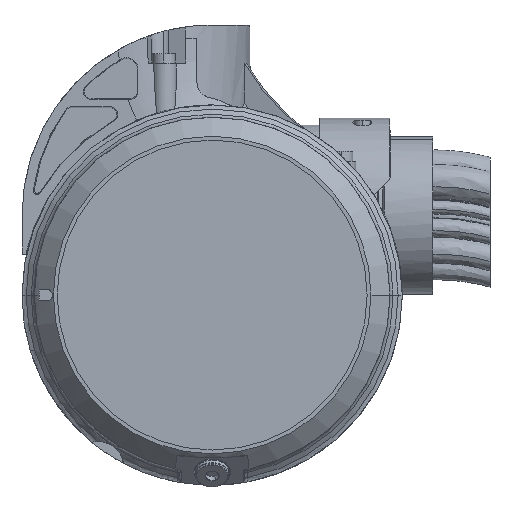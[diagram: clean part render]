
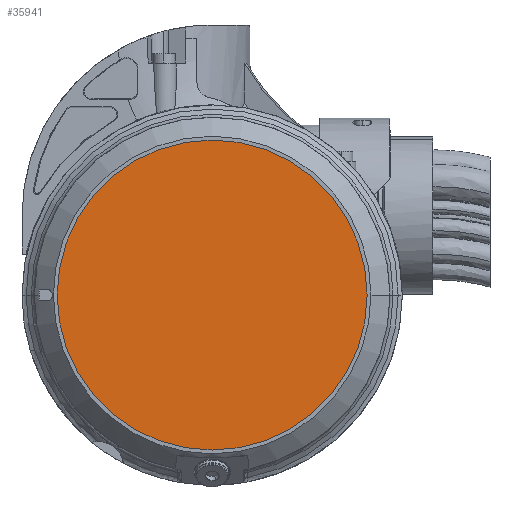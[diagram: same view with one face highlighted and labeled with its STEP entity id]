
A CAD part, left-side view. The second image highlights one B-rep face of the part: STEP entity #35941.
In plain terms, the highlighted planar face has unit normal (-1, 0, 0).
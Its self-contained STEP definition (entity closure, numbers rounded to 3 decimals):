
#6032 = ORIENTED_EDGE ( 'NONE', *, *, #20288, .T. ) ;
#6611 = DIRECTION ( 'NONE',  ( -1., 0., 0. ) ) ;
#8885 = DIRECTION ( 'NONE',  ( -1., 0., 0. ) ) ;
#10132 = FACE_OUTER_BOUND ( 'NONE', #15288, .T. ) ;
#12140 = CARTESIAN_POINT ( 'NONE',  ( 1970.5, -81.5, 2266. ) ) ;
#13788 = CARTESIAN_POINT ( 'NONE',  ( 1970.5, 0., 2266. ) ) ;
#14505 = PLANE ( 'NONE',  #18615 ) ;
#14799 = CARTESIAN_POINT ( 'NONE',  ( 1970.5, 81.5, 2266. ) ) ;
#15288 = EDGE_LOOP ( 'NONE', ( #6032, #19696 ) ) ;
#18615 = AXIS2_PLACEMENT_3D ( 'NONE', #28662, #6611, #42902 ) ;
#19696 = ORIENTED_EDGE ( 'NONE', *, *, #32030, .T. ) ;
#20288 = EDGE_CURVE ( 'NONE', #25661, #23948, #25453, .T. ) ;
#22456 = AXIS2_PLACEMENT_3D ( 'NONE', #13788, #38462, #24061 ) ;
#23948 = VERTEX_POINT ( 'NONE', #14799 ) ;
#24061 = DIRECTION ( 'NONE',  ( 0., -1., 0. ) ) ;
#25453 = CIRCLE ( 'NONE', #22456, 81.5 ) ;
#25661 = VERTEX_POINT ( 'NONE', #12140 ) ;
#28662 = CARTESIAN_POINT ( 'NONE',  ( 1970.5, 18.5, 2266. ) ) ;
#31972 = CIRCLE ( 'NONE', #39453, 81.5 ) ;
#32030 = EDGE_CURVE ( 'NONE', #23948, #25661, #31972, .T. ) ;
#33045 = CARTESIAN_POINT ( 'NONE',  ( 1970.5, 0., 2266. ) ) ;
#35941 = ADVANCED_FACE ( 'NONE', ( #10132 ), #14505, .T. ) ;
#38462 = DIRECTION ( 'NONE',  ( -1., 0., 0. ) ) ;
#39453 = AXIS2_PLACEMENT_3D ( 'NONE', #33045, #8885, #40965 ) ;
#40965 = DIRECTION ( 'NONE',  ( 0., -1., 0. ) ) ;
#42902 = DIRECTION ( 'NONE',  ( 0., -1., 0. ) ) ;
